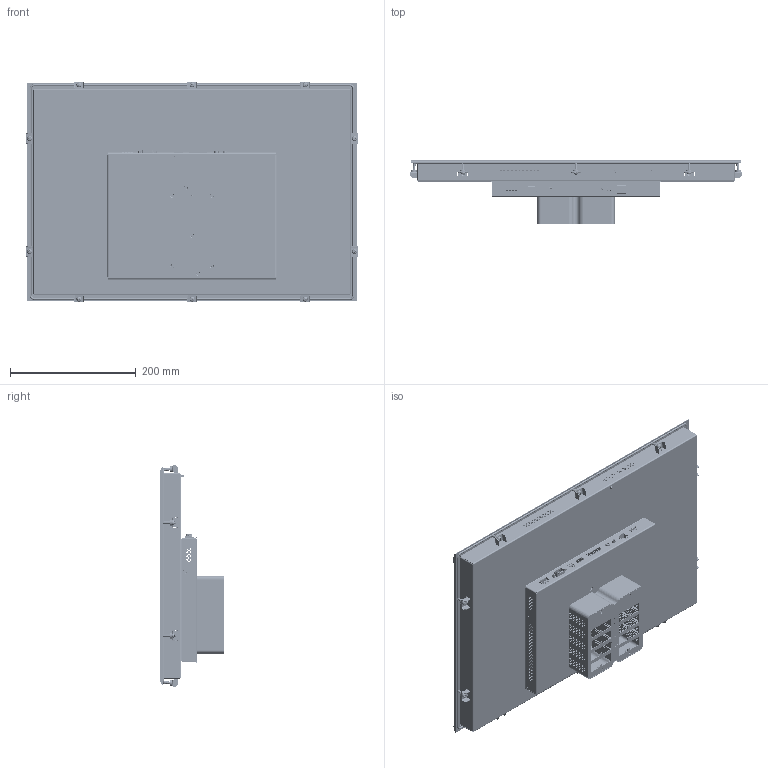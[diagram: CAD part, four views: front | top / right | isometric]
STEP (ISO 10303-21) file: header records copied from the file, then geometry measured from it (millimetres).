
FILE_DESCRIPTION (( 'STEP AP214' ), '1' );
FILE_NAME ('ﾏﾋﾊ21,5-01 ﾌ瑕褪.STEP', '2025-05-24T22:30:46', ( '' ), ( '' ), 'SwSTEP 2.0', 'SolidWorks 2021', '' );
FILE_SCHEMA (( 'AUTOMOTIVE_DESIGN' ));
Length unit declared in the file: millimetre
Products named in the file (1): ﾏﾋﾊ21,5-01 ﾌ瑕褪
Bounding box: 528.45 x 102.3 x 352.45 mm (x, y, z)
Surface area: 894439.1 mm2 (no closed solid volume)
Topology: 0 solids, 212 shells, 2493 faces, 14604 edges, 12139 vertices
Faces by surface type: cylinder 1337, plane 997, cone 73, bspline 43, torus 43
Entity records: 177907 total; most frequent: CARTESIAN_POINT 41841, DIRECTION 21021, ORIENTED_EDGE 19623, EDGE_CURVE 14598, VERTEX_POINT 12139, VECTOR 7515, LINE 7515, AXIS2_PLACEMENT_3D 6753
